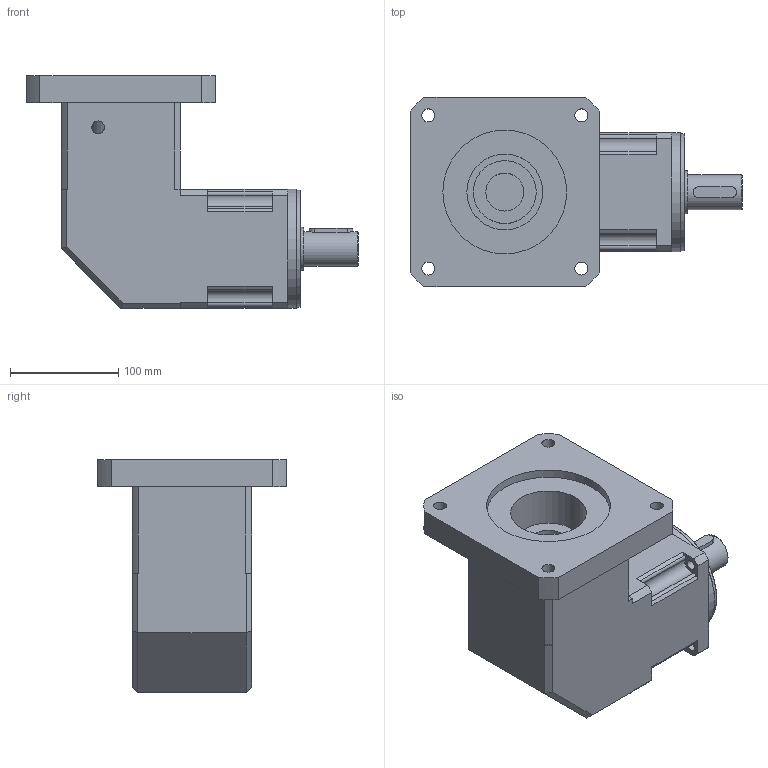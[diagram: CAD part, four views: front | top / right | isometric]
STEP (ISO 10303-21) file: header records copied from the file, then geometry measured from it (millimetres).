
FILE_DESCRIPTION(/* description */ (''),/* implementation_level */ '2;1');
FILE_NAME(/* name */ 'KVX115-1-177.stp',/* time_stamp */ '2019-08-18T19:50:14+08:00',/* author */ (''),/* organization */ (''),/* preprocessor_version */ 'ST-DEVELOPER v16',/* originating_system */ 'SIEMENS PLM Software NX 10.0',/* authorisation */ '');
FILE_SCHEMA (('CONFIG_CONTROL_DESIGN'));
Length unit declared in the file: millimetre
Products named in the file (1): KVX115-1-177
Bounding box: 306.5 x 175 x 215 mm (x, y, z)
Volume: 3883894.5 mm3; surface area: 232187.3 mm2
Topology: 1 solids, 1 shells, 109 faces, 280 edges, 182 vertices
Faces by surface type: cylinder 56, plane 50, cone 2, torus 1
Full cylindrical faces by diameter (mm): 8.5 x1, 9 x4, 11.838 x1, 12 x4, 32 x1, 35 x1, 40 x1, 58 x1, 70.1 x1, 108 x1, 110 x1, 114.3 x1
Entity records: 3343 total; most frequent: DIRECTION 585, CARTESIAN_POINT 581, ORIENTED_EDGE 508, EDGE_CURVE 254, AXIS2_PLACEMENT_3D 224, VERTEX_POINT 178, EDGE_LOOP 157, LINE 137
